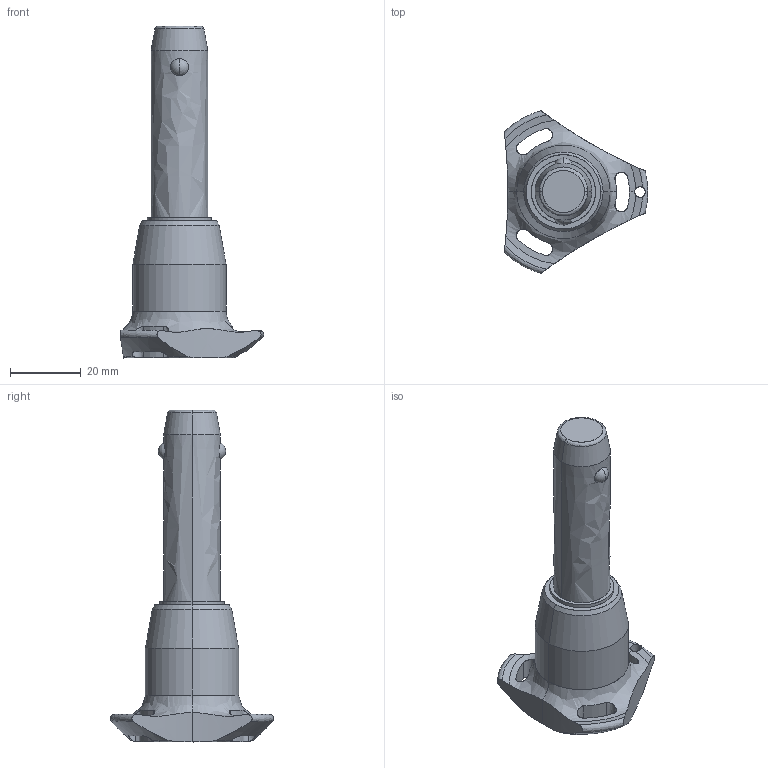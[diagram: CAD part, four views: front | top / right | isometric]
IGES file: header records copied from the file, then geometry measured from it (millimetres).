
Start section: SolidWorks IGES file using analytic representation for surfaces
Global section: file name: C:\Users\ianosborn\Desktop\QR1724_v2\QR1724_v2_20251112_IGES\QR1724.M16-040-S.igs; native system: SolidWorks 2019; preprocessor: SolidWorks 2019; author: IanOsborn; date: 251112.130204; units: millimetre
Bounding box: 40.5 x 45.88 x 93.7 mm (x, y, z)
Surface area: 8669.1 mm2 (no closed solid volume)
Topology: 0 solids, 0 shells, 65 faces, 1379 edges, 1375 vertices
Faces by surface type: revolution 50, bspline 15
